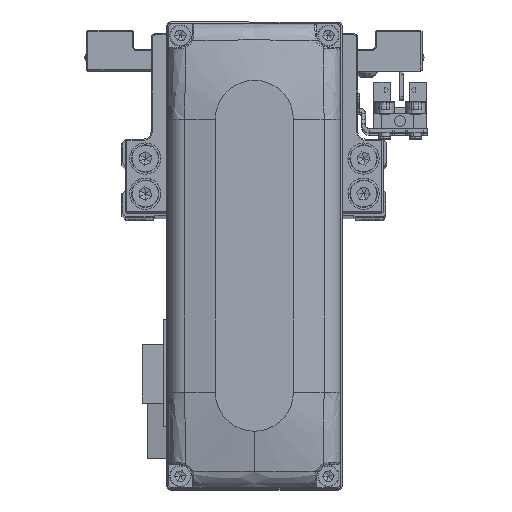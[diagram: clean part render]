
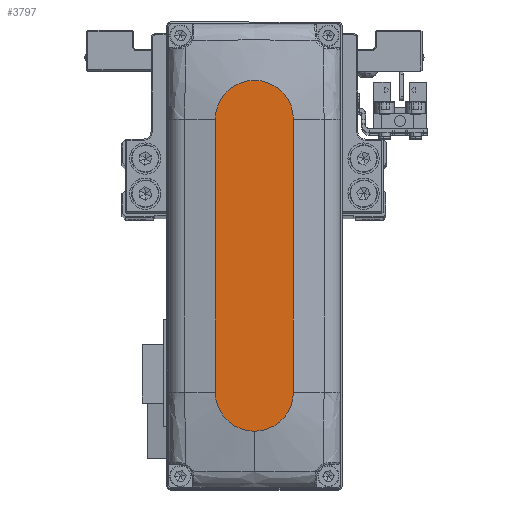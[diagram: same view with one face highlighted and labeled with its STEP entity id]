
A CAD part, top view. The second image highlights one B-rep face of the part: STEP entity #3797.
In plain terms, the highlighted planar face has unit normal (0, 0, 1).
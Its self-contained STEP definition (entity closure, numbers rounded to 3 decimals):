
#1815 = CARTESIAN_POINT ( 'NONE',  ( -35., -10., 28. ) ) ;
#3797 = ADVANCED_FACE ( 'NONE', ( #9197 ), #21359, .T. ) ;
#4378 = DIRECTION ( 'NONE',  ( 1., 0., 0. ) ) ;
#4614 = CARTESIAN_POINT ( 'NONE',  ( -35., 10., 28. ) ) ;
#4752 = CIRCLE ( 'NONE', #27055, 10. ) ;
#4885 = EDGE_CURVE ( 'NONE', #23275, #32888, #31937, .T. ) ;
#6210 = DIRECTION ( 'NONE',  ( 0., 0., 1. ) ) ;
#6315 = CARTESIAN_POINT ( 'NONE',  ( 35., -10., 28. ) ) ;
#6325 = CARTESIAN_POINT ( 'NONE',  ( -35., 0., 28. ) ) ;
#7034 = CARTESIAN_POINT ( 'NONE',  ( 45., 0., 28. ) ) ;
#7192 = VERTEX_POINT ( 'NONE', #6315 ) ;
#8746 = CARTESIAN_POINT ( 'NONE',  ( -35., -10., 28. ) ) ;
#9197 = FACE_OUTER_BOUND ( 'NONE', #23180, .T. ) ;
#12097 = DIRECTION ( 'NONE',  ( 0., 0., 1. ) ) ;
#12184 = ORIENTED_EDGE ( 'NONE', *, *, #26114, .T. ) ;
#14768 = CIRCLE ( 'NONE', #37056, 10. ) ;
#15436 = EDGE_CURVE ( 'NONE', #32888, #36191, #33463, .T. ) ;
#16244 = AXIS2_PLACEMENT_3D ( 'NONE', #6325, #18479, #30636 ) ;
#16791 = DIRECTION ( 'NONE',  ( -1., 0., 0. ) ) ;
#17236 = VECTOR ( 'NONE', #20901, 1000. ) ;
#17471 = ORIENTED_EDGE ( 'NONE', *, *, #39117, .T. ) ;
#18363 = DIRECTION ( 'NONE',  ( 1., 0., 0. ) ) ;
#18479 = DIRECTION ( 'NONE',  ( 0., 0., 1. ) ) ;
#19544 = CARTESIAN_POINT ( 'NONE',  ( 35., 0., 28. ) ) ;
#20901 = DIRECTION ( 'NONE',  ( 1., 0., 0. ) ) ;
#20904 = CARTESIAN_POINT ( 'NONE',  ( 35., 10., 28. ) ) ;
#21271 = VERTEX_POINT ( 'NONE', #7034 ) ;
#21359 = PLANE ( 'NONE',  #27715 ) ;
#21481 = CARTESIAN_POINT ( 'NONE',  ( -35., 10., 28. ) ) ;
#23180 = EDGE_LOOP ( 'NONE', ( #28822, #23508, #17471, #35672, #12184 ) ) ;
#23275 = VERTEX_POINT ( 'NONE', #20904 ) ;
#23508 = ORIENTED_EDGE ( 'NONE', *, *, #15436, .T. ) ;
#24238 = VECTOR ( 'NONE', #16791, 1000. ) ;
#24254 = DIRECTION ( 'NONE',  ( 1., 0., 0. ) ) ;
#26114 = EDGE_CURVE ( 'NONE', #21271, #23275, #14768, .T. ) ;
#27055 = AXIS2_PLACEMENT_3D ( 'NONE', #39427, #12097, #24254 ) ;
#27715 = AXIS2_PLACEMENT_3D ( 'NONE', #33538, #6210, #18363 ) ;
#28822 = ORIENTED_EDGE ( 'NONE', *, *, #4885, .T. ) ;
#30411 = EDGE_CURVE ( 'NONE', #7192, #21271, #4752, .T. ) ;
#30636 = DIRECTION ( 'NONE',  ( 1., 0., 0. ) ) ;
#31717 = DIRECTION ( 'NONE',  ( 0., 0., 1. ) ) ;
#31937 = LINE ( 'NONE', #4614, #24238 ) ;
#32888 = VERTEX_POINT ( 'NONE', #21481 ) ;
#33463 = CIRCLE ( 'NONE', #16244, 10. ) ;
#33538 = CARTESIAN_POINT ( 'NONE',  ( 0., 0., 28. ) ) ;
#35672 = ORIENTED_EDGE ( 'NONE', *, *, #30411, .T. ) ;
#36065 = LINE ( 'NONE', #8746, #17236 ) ;
#36191 = VERTEX_POINT ( 'NONE', #1815 ) ;
#37056 = AXIS2_PLACEMENT_3D ( 'NONE', #19544, #31717, #4378 ) ;
#39117 = EDGE_CURVE ( 'NONE', #36191, #7192, #36065, .T. ) ;
#39427 = CARTESIAN_POINT ( 'NONE',  ( 35., 0., 28. ) ) ;
